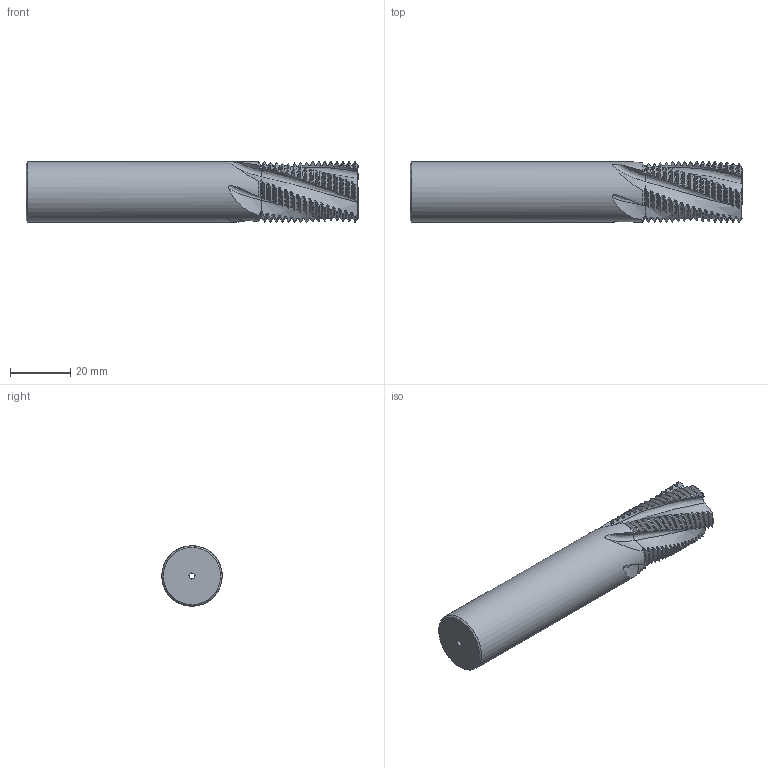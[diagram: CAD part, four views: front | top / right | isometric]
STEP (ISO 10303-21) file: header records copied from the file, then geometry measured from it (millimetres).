
FILE_DESCRIPTION(/* description */ (''),/* implementation_level */ '2;1');
FILE_NAME(/* name */ '00035658-STEP',/* time_stamp */ '2024-02-13T15:01:41+01:00',/* author */ (''),/* organization */ (''),/* preprocessor_version */ 'ST-DEVELOPER v16.5',/* originating_system */ 'HiCAD 2017 2201.0 Build 268',/* authorisation */ '');
FILE_SCHEMA (('AUTOMOTIVE_DESIGN { 1 0 10303 214 1 1 1 1 }'));
Products named in the file (2): Root; ROTATIONSTEIL_2
Assembly tree (1 placements, depth 2):
  Root
    ROTATIONSTEIL_2
Bounding box: 110 x 20 x 20 mm (x, y, z)
Volume: 30627.5 mm3; surface area: 8956.6 mm2
Topology: 1 solids, 1 shells, 530 faces, 1619 edges, 1091 vertices
Faces by surface type: cylinder 167, cone 166, torus 165, bspline 30, plane 2
Full cylindrical faces by diameter (mm): 2 x1, 20 x1
Entity records: 54977 total; most frequent: CARTESIAN_POINT 27140, PRESENTATION_STYLE_ASSIGNMENT 3225, COLOUR_RGB 3225, DRAUGHTING_PRE_DEFINED_CURVE_FONT 3224, CURVE_STYLE 3224, OVER_RIDING_STYLED_ITEM 3224, ORIENTED_EDGE 3224, DIRECTION 2080
